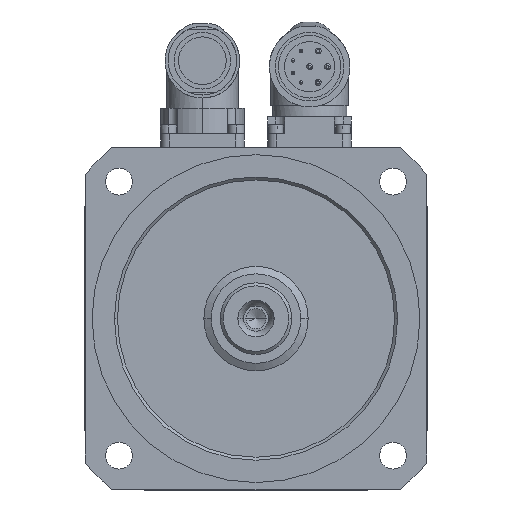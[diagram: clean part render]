
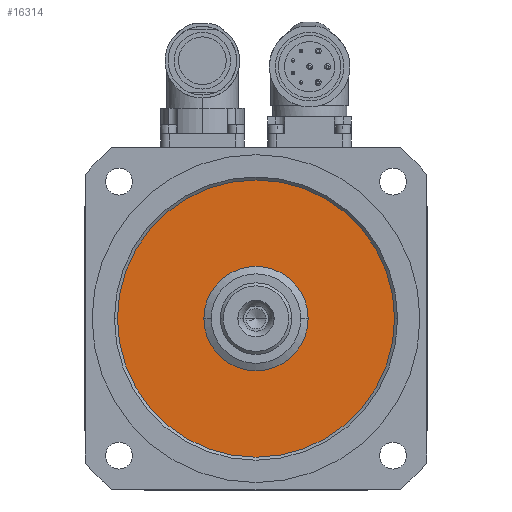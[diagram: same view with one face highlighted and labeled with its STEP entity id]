
A CAD part, front view. The second image highlights one B-rep face of the part: STEP entity #16314.
In plain terms, the highlighted planar face has unit normal (0, -1, 0).
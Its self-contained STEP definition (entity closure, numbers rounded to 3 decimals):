
#4822=CARTESIAN_POINT('',(0.,1.5,0.));
#4823=DIRECTION('',(0.,-1.,0.));
#4824=DIRECTION('',(1.,0.,0.));
#4825=AXIS2_PLACEMENT_3D('',#4822,#4823,#4824);
#4830=CARTESIAN_POINT('',(0.,1.5,0.));
#4831=DIRECTION('',(0.,-1.,0.));
#4832=DIRECTION('',(-1.,0.,0.));
#4833=AXIS2_PLACEMENT_3D('',#4830,#4831,#4832);
#4838=CARTESIAN_POINT('',(0.,1.5,0.));
#4839=DIRECTION('',(0.,1.,0.));
#4840=DIRECTION('',(1.,0.,0.));
#4841=AXIS2_PLACEMENT_3D('',#4838,#4839,#4840);
#4846=CARTESIAN_POINT('',(0.,1.5,0.));
#4847=DIRECTION('',(0.,1.,0.));
#4848=DIRECTION('',(-1.,0.,0.));
#4849=AXIS2_PLACEMENT_3D('',#4846,#4847,#4848);
#10748=CARTESIAN_POINT('',(17.5,1.5,0.));
#10750=VERTEX_POINT('',#10748);
#10751=CARTESIAN_POINT('',(-17.5,1.5,0.));
#10752=VERTEX_POINT('',#10751);
#12197=CARTESIAN_POINT('',(-46.5,1.5,0.));
#12198=CARTESIAN_POINT('',(46.5,1.5,0.));
#12199=VERTEX_POINT('',#12197);
#12200=VERTEX_POINT('',#12198);
#16298=CARTESIAN_POINT('',(0.,1.5,0.));
#16299=DIRECTION('',(0.,-1.,0.));
#16300=DIRECTION('',(1.,0.,0.));
#16301=AXIS2_PLACEMENT_3D('',#16298,#16299,#16300);
#16302=PLANE('',#16301);
#16304=ORIENTED_EDGE('',*,*,#16303,.F.);
#16305=ORIENTED_EDGE('',*,*,#16288,.F.);
#16306=EDGE_LOOP('',(#16304,#16305));
#16307=FACE_OUTER_BOUND('',#16306,.F.);
#16309=ORIENTED_EDGE('',*,*,#16308,.F.);
#16311=ORIENTED_EDGE('',*,*,#16310,.F.);
#16312=EDGE_LOOP('',(#16309,#16311));
#16313=FACE_BOUND('',#16312,.F.);
#4826=CIRCLE('',#4825,46.5);
#4834=CIRCLE('',#4833,46.5);
#4842=CIRCLE('',#4841,17.5);
#4850=CIRCLE('',#4849,17.5);
#16288=EDGE_CURVE('',#12199,#12200,#4834,.T.);
#16303=EDGE_CURVE('',#12200,#12199,#4826,.T.);
#16308=EDGE_CURVE('',#10750,#10752,#4842,.T.);
#16310=EDGE_CURVE('',#10752,#10750,#4850,.T.);
#16314=ADVANCED_FACE('',(#16307,#16313),#16302,.T.);
